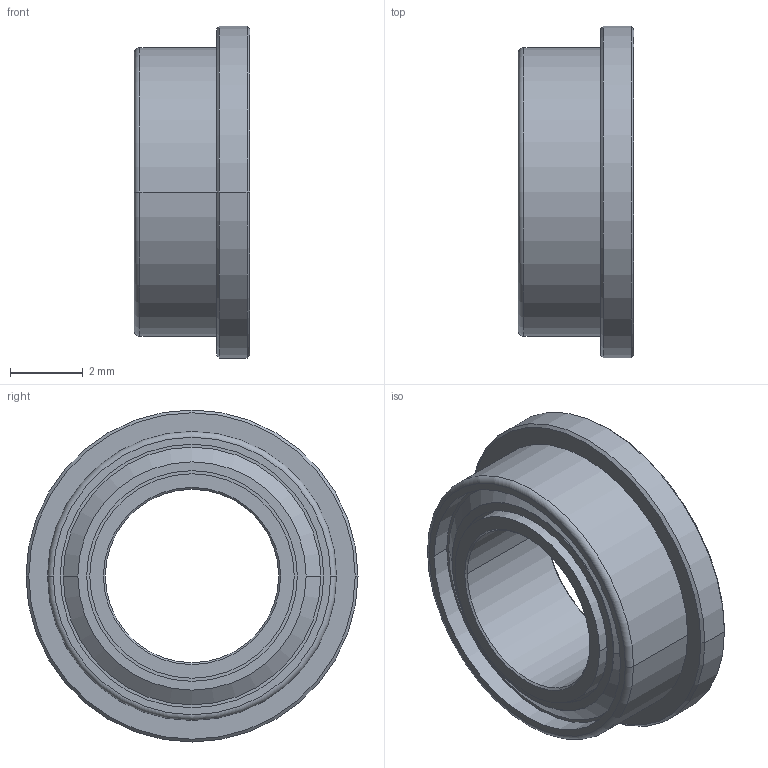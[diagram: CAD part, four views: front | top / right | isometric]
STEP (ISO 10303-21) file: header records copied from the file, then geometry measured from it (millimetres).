
FILE_DESCRIPTION((''),'2;1');
FILE_NAME('34650','2011-01-23T',('carefree'),(''),'PRO/ENGINEER BY PARAMETRIC TECHNOLOGY CORPORATION, 2005030','PRO/ENGINEER BY PARAMETRIC TECHNOLOGY CORPORATION, 2005030','');
FILE_SCHEMA(('CONFIG_CONTROL_DESIGN'));
Length unit declared in the file: inch
Products named in the file (1): 34650
Bounding box: 3.17 x 9.12 x 9.12 mm (x, y, z)
Volume: 89.5 mm3; surface area: 350.7 mm2
Topology: 1 solids, 1 shells, 55 faces, 110 edges, 70 vertices
Faces by surface type: cylinder 22, cone 16, plane 15, torus 2
Entity records: 1500 total; most frequent: DIRECTION 292, CARTESIAN_POINT 235, ORIENTED_EDGE 220, AXIS2_PLACEMENT_3D 127, EDGE_CURVE 110, CIRCLE 72, VERTEX_POINT 70, EDGE_LOOP 70
